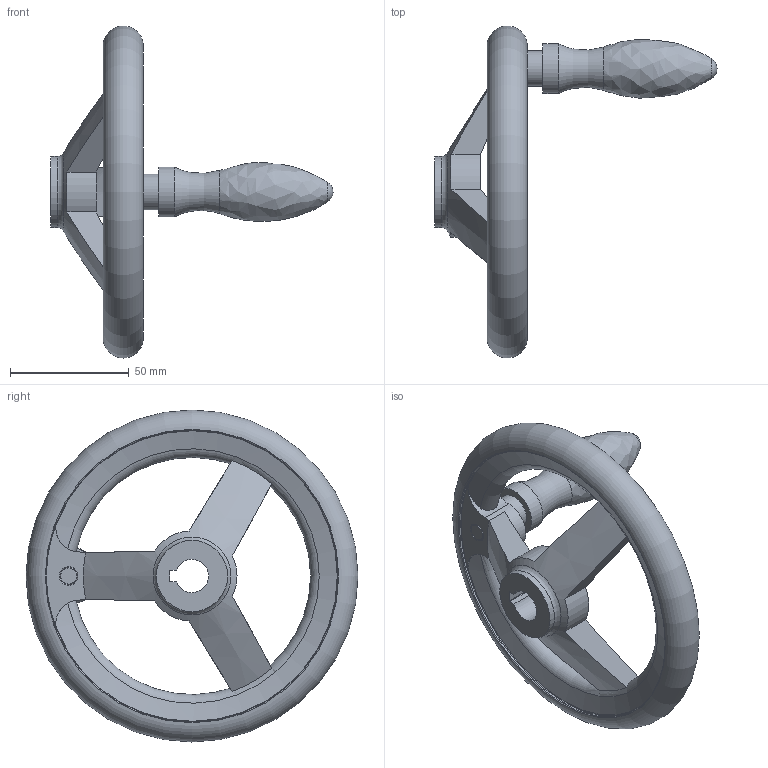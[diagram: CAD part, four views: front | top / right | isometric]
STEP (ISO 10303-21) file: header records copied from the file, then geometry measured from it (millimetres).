
FILE_DESCRIPTION( ( 'STEP AP203' ), '1' );
FILE_NAME( 'C:/Temp/Ganter_Step_05_03_2020/data/1_3/din_950/din_950_k/din_950_k_d/Handwheel DIN 950-GG-140-K14-D.stp', '2020-03-05T10:30:51', ( 'License CC BY-ND 4.0' ), ( 'CADENAS' ), ' ', 'PARTsolutions', ' ' );
FILE_SCHEMA( ( 'CONFIG_CONTROL_DESIGN' ) );
Length unit declared in the file: millimetre
Products named in the file (1): _Handwheel DIN 950-GG-140-K14-D
Bounding box: 119 x 140 x 140 mm (x, y, z)
Volume: 151617.2 mm3; surface area: 37980.6 mm2
Topology: 1 solids, 1 shells, 49 faces, 134 edges, 85 vertices
Faces by surface type: cylinder 15, plane 15, torus 11, cone 6, bspline 1, sphere 1
Full cylindrical faces by diameter (mm): 15 x1, 21 x1, 30 x2, 123 x2
Entity records: 1813 total; most frequent: CARTESIAN_POINT 647, DIRECTION 228, ORIENTED_EDGE 216, EDGE_CURVE 108, AXIS2_PLACEMENT_3D 102, VERTEX_POINT 81, EDGE_LOOP 75, FACE_OUTER_BOUND 64
